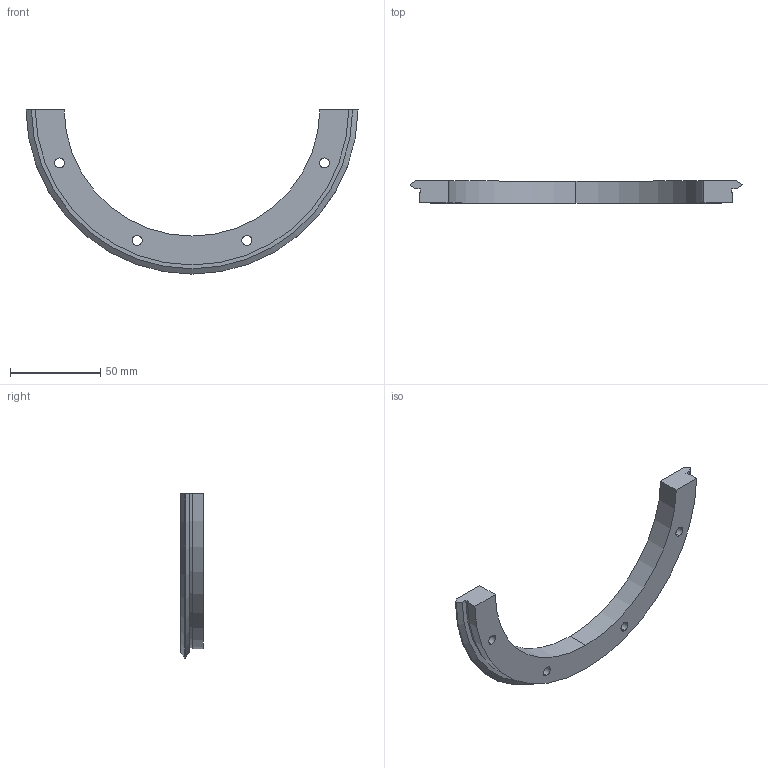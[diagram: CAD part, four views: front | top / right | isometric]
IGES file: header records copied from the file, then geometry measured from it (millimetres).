
Start section: 3D InterOp IGES (v. 2020 1.0.1), Spatial Corp. Copyright (c) 1999-2017.
Global section: file name: res_184_r180.igs; native system: Spatial Corp.; preprocessor: 3D InterOp ACIS/IGES; author: TraceParts; organization: TraceParts S.A.; date: 20220624.095314; units: millimetre
Bounding box: 184.21 x 12.25 x 91.11 mm (x, y, z)
Surface area: 17695.1 mm2 (no closed solid volume)
Topology: 0 solids, 0 shells, 40 faces, 198 edges, 198 vertices
Faces by surface type: revolution 30, extrusion 10
